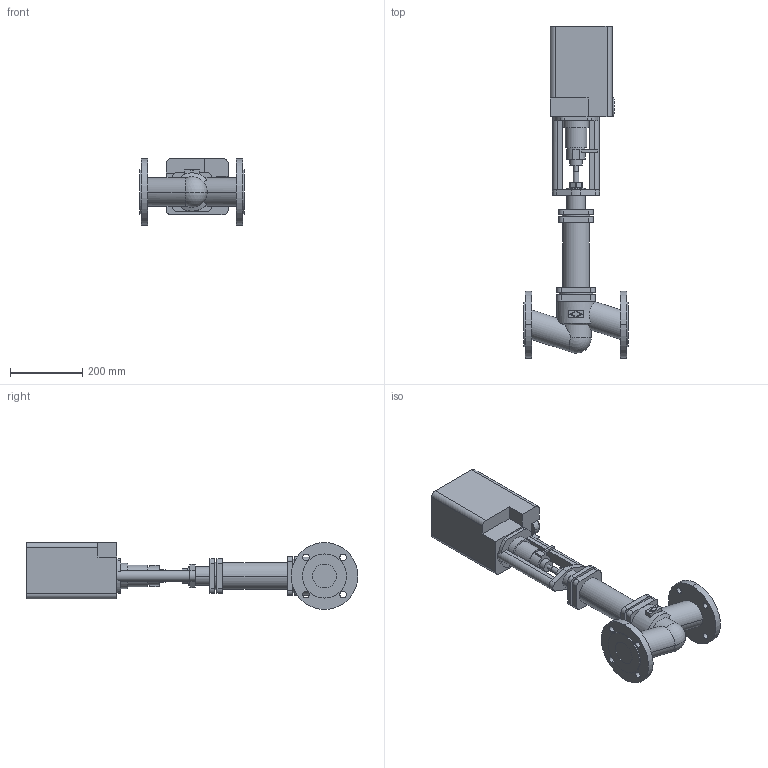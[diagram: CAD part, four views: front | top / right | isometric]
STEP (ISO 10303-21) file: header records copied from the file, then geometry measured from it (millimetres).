
FILE_DESCRIPTION(('CoCreate Modeling STEP Export'),'2;1');
FILE_NAME('c000000370.stp','2011-10-12T 7:49:21',(''),(''),'CoCreate Modeling STEP processor for AP214 (Solid Model)','CoCreate Modeling 17.0 01-Apr-2010 (C) Parametric Technology GmbH','');
FILE_SCHEMA(('AUTOMOTIVE_DESIGN { 1 0 10303 214 1 1 1 1 }'));
Length unit declared in the file: millimetre
Products named in the file (2): 1; 2
Bounding box: 290 x 918 x 185 mm (x, y, z)
Volume: 11528216.4 mm3; surface area: 627325.3 mm2
Topology: 2 solids, 2 shells, 226 faces, 572 edges, 378 vertices
Faces by surface type: plane 109, cylinder 105, sphere 6, torus 4, cone 2
Entity records: 8463 total; most frequent: CARTESIAN_POINT 1366, ORIENTED_EDGE 1140, DIRECTION 1028, EDGE_CURVE 570, VERTEX_POINT 378, AXIS2_PLACEMENT_3D 357, VECTOR 314, LINE 314
